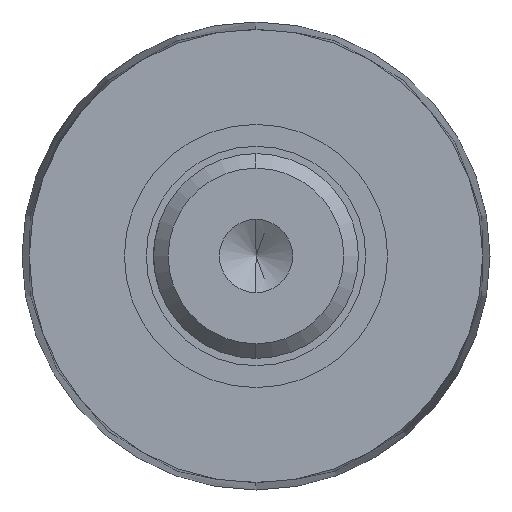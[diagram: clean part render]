
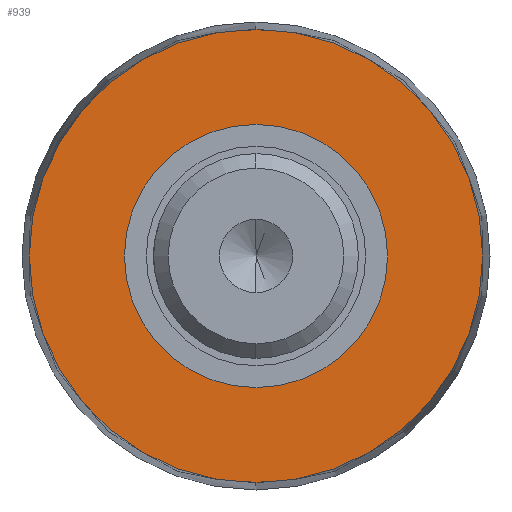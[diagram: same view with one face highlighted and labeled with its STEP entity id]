
A CAD part, left-side view. The second image highlights one B-rep face of the part: STEP entity #939.
In plain terms, the highlighted planar face has unit normal (-1, 0, 0).
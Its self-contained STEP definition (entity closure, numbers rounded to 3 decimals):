
#14 = CARTESIAN_POINT ( 'NONE',  ( 98.5, 0., 0. ) ) ;
#17 = ORIENTED_EDGE ( 'NONE', *, *, #970, .T. ) ;
#60 = CARTESIAN_POINT ( 'NONE',  ( 98.5, 0., -15.5 ) ) ;
#84 = CARTESIAN_POINT ( 'NONE',  ( 98.5, 16., 0. ) ) ;
#98 = DIRECTION ( 'NONE',  ( 0., 0., 1. ) ) ;
#166 = VERTEX_POINT ( 'NONE', #60 ) ;
#170 = AXIS2_PLACEMENT_3D ( 'NONE', #1198, #889, #792 ) ;
#173 = CIRCLE ( 'NONE', #669, 9. ) ;
#203 = CIRCLE ( 'NONE', #463, 15.5 ) ;
#224 = ORIENTED_EDGE ( 'NONE', *, *, #581, .T. ) ;
#275 = CARTESIAN_POINT ( 'NONE',  ( 98.5, 0., -9. ) ) ;
#281 = DIRECTION ( 'NONE',  ( 1., 0., 0. ) ) ;
#375 = DIRECTION ( 'NONE',  ( 0., 0., 1. ) ) ;
#440 = CIRCLE ( 'NONE', #170, 15.5 ) ;
#453 = DIRECTION ( 'NONE',  ( 1., 0., 0. ) ) ;
#463 = AXIS2_PLACEMENT_3D ( 'NONE', #14, #713, #98 ) ;
#550 = EDGE_CURVE ( 'NONE', #166, #1303, #440, .T. ) ;
#581 = EDGE_CURVE ( 'NONE', #946, #931, #173, .T. ) ;
#627 = EDGE_CURVE ( 'NONE', #1303, #166, #203, .T. ) ;
#629 = CARTESIAN_POINT ( 'NONE',  ( 98.5, 0., 0. ) ) ;
#641 = FACE_OUTER_BOUND ( 'NONE', #686, .T. ) ;
#658 = ORIENTED_EDGE ( 'NONE', *, *, #627, .T. ) ;
#669 = AXIS2_PLACEMENT_3D ( 'NONE', #1308, #281, #1099 ) ;
#672 = FACE_BOUND ( 'NONE', #1060, .T. ) ;
#678 = PLANE ( 'NONE',  #725 ) ;
#686 = EDGE_LOOP ( 'NONE', ( #816, #658 ) ) ;
#713 = DIRECTION ( 'NONE',  ( -1., 0., 0. ) ) ;
#725 = AXIS2_PLACEMENT_3D ( 'NONE', #84, #886, #375 ) ;
#755 = CIRCLE ( 'NONE', #786, 9. ) ;
#786 = AXIS2_PLACEMENT_3D ( 'NONE', #629, #453, #953 ) ;
#792 = DIRECTION ( 'NONE',  ( 0., 0., 1. ) ) ;
#816 = ORIENTED_EDGE ( 'NONE', *, *, #550, .T. ) ;
#886 = DIRECTION ( 'NONE',  ( -1., 0., 0. ) ) ;
#889 = DIRECTION ( 'NONE',  ( -1., 0., 0. ) ) ;
#921 = CARTESIAN_POINT ( 'NONE',  ( 98.5, 0., 15.5 ) ) ;
#931 = VERTEX_POINT ( 'NONE', #275 ) ;
#939 = ADVANCED_FACE ( 'NONE', ( #672, #641 ), #678, .T. ) ;
#946 = VERTEX_POINT ( 'NONE', #983 ) ;
#953 = DIRECTION ( 'NONE',  ( 0., 0., -1. ) ) ;
#970 = EDGE_CURVE ( 'NONE', #931, #946, #755, .T. ) ;
#983 = CARTESIAN_POINT ( 'NONE',  ( 98.5, 0., 9. ) ) ;
#1060 = EDGE_LOOP ( 'NONE', ( #17, #224 ) ) ;
#1099 = DIRECTION ( 'NONE',  ( 0., 0., -1. ) ) ;
#1198 = CARTESIAN_POINT ( 'NONE',  ( 98.5, 0., 0. ) ) ;
#1303 = VERTEX_POINT ( 'NONE', #921 ) ;
#1308 = CARTESIAN_POINT ( 'NONE',  ( 98.5, 0., 0. ) ) ;
